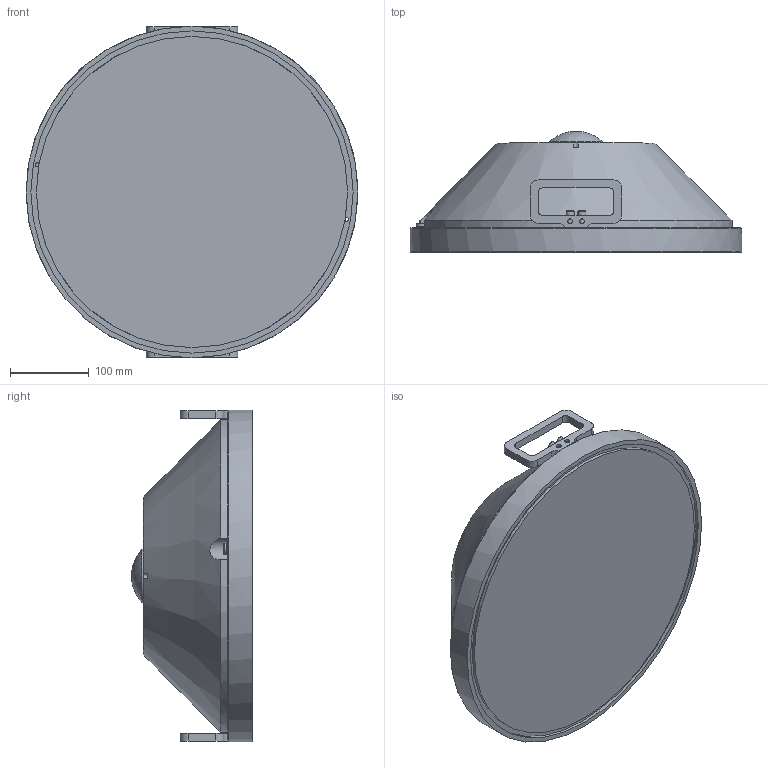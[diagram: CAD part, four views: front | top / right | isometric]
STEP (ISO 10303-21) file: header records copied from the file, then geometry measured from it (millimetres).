
FILE_DESCRIPTION (( 'STEP AP203' ), '1' );
FILE_NAME ('0019780 EZ-0300-420.STEP', '2025-04-22T10:03:45', ( '' ), ( '' ), 'SwSTEP 2.0', 'SolidWorks 2021', '' );
FILE_SCHEMA (( 'CONFIG_CONTROL_DESIGN' ));
Length unit declared in the file: millimetre
Products named in the file (1): 0019780 EZ-0300-420
Bounding box: 420 x 152.43 x 420 mm (x, y, z)
Volume: 12519389 mm3; surface area: 423470.1 mm2
Topology: 9 solids, 9 shells, 264 faces, 643 edges, 399 vertices
Faces by surface type: plane 123, cylinder 91, cone 39, torus 10, sphere 1
Full cylindrical faces by diameter (mm): 5 x20, 6 x4, 6.3 x16, 6.8 x1, 8 x1, 8.8 x3, 9 x1, 9.6 x1, 9.728 x1, 10 x4, 12 x2, 13.5 x1, 14 x1, 15 x1, 68 x1, 394 x1, 408 x1, 420 x1
Entity records: 7054 total; most frequent: CARTESIAN_POINT 1401, DIRECTION 1204, ORIENTED_EDGE 976, EDGE_CURVE 488, AXIS2_PLACEMENT_3D 487, EDGE_LOOP 409, VERTEX_POINT 353, FACE_OUTER_BOUND 336
